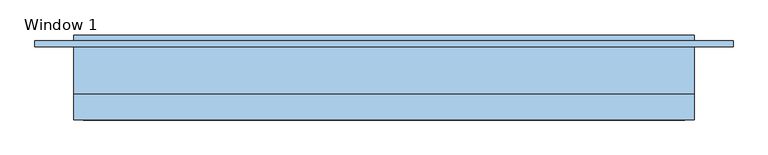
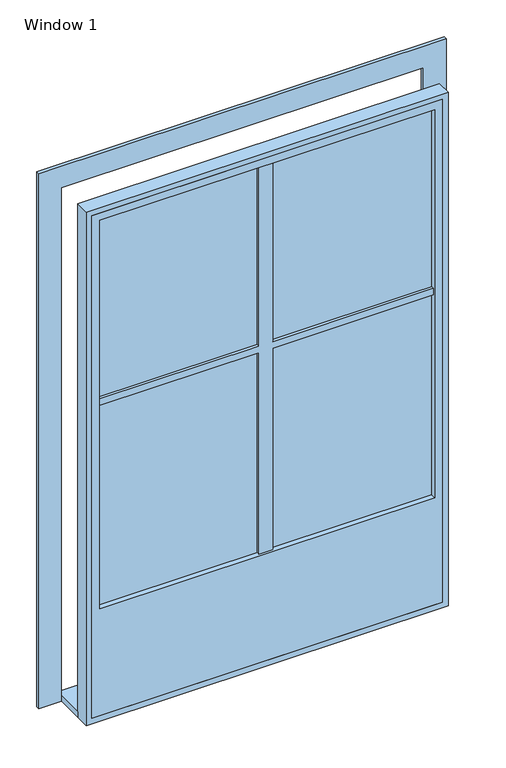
"""IFC4 building model written with IfcOpenShell, lengths in millimetres: window geometry, Window 1 : 1600/2400."""

from ifc_helpers import new_model, si_unit, frame, origin, origin_with_axes, place, context, project, spatial, polyline, outline, extrude, faceted_brep, source, transform, mapped, element, save


def window_1_87741a49(model_context):
    return source(origin(), model_context, "Body", "SolidModel", [
        extrude(outline(polyline([(800.0, 26.9623738), (-800.0, 26.9623738), (-800.0, 180.0), (800.0, 180.0), (800.0, 26.9623738)])), origin_with_axes(), (0.0, 0.0, 1.0), 25.0),
        extrude(outline(polyline([(0.0, -800.0), (0.0, 800.0), (2400.0, 800.0), (2400.0, -800.0), (0.0, -800.0)]), holes=[polyline([(25.0, -775.0), (2375.0, -775.0), (2375.0, 775.0), (25.0, 775.0), (25.0, -775.0)])]), frame((0.0, -39.0188131, 0.0), z_axis=(0.0, 1.0, 0.0), x_axis=(0.0, 0.0, 1.0)), (0.0, 0.0, 1.0), 65.9811869),
        faceted_brep([(740.0, -28.5188131, 1497.5), (30.0, -28.5188131, 1497.5), (30.0, -28.5188131, 2340.0), (-30.0, -28.5188131, 2340.0), (-30.0, -28.5188131, 1497.5), (-740.0, -28.5188131, 1497.5), (-740.0, -28.5188131, 1467.5), (-30.0, -28.5188131, 1467.5), (-30.0, -28.5188131, 525.0), (30.0, -28.5188131, 525.0), (30.0, -28.5188131, 1467.5), (740.0, -28.5188131, 1467.5), (740.0, -8.5188131, 1467.5), (30.0, -8.5188131, 1467.5), (30.0, -8.5188131, 1497.5), (740.0, -8.5188131, 1497.5), (-30.0, -8.5188131, 1467.5), (-740.0, -8.5188131, 1467.5), (-740.0, -8.5188131, 1497.5), (-30.0, -8.5188131, 1497.5), (-775.0, 11.4811869, 2375.0), (775.0, 11.4811869, 2375.0), (775.0, 11.4811869, 25.0), (-775.0, 11.4811869, 25.0), (-30.0, 11.4811869, 525.0), (-30.0, 11.4811869, 2340.0), (-740.0, 11.4811869, 2340.0), (-740.0, 11.4811869, 525.0), (30.0, 11.4811869, 2340.0), (30.0, 11.4811869, 525.0), (740.0, 11.4811869, 525.0), (740.0, 11.4811869, 2340.0), (-775.0, -39.0188131, 2375.0), (-775.0, -39.0188131, 25.0), (775.0, -39.0188131, 25.0), (775.0, -39.0188131, 2375.0), (-740.0, -39.0188131, 2340.0), (740.0, -39.0188131, 2340.0), (740.0, -39.0188131, 525.0), (-740.0, -39.0188131, 525.0)], [[[0, 1, 2, 3, 4, 5, 6, 7, 8, 9, 10, 11]], [[12, 13, 14, 15]], [[16, 17, 18, 19]], [[1, 0, 15, 14]], [[5, 4, 19, 18]], [[7, 6, 17, 16]], [[11, 10, 13, 12]], [[20, 21, 22, 23], [24, 25, 26, 27], [28, 29, 30, 31]], [[25, 24, 8, 7, 16, 19, 4, 3]], [[29, 28, 2, 1, 14, 13, 10, 9]], [[32, 33, 34, 35], [36, 37, 38, 39]], [[33, 32, 20, 23]], [[34, 33, 23, 22]], [[35, 34, 22, 21]], [[32, 35, 21, 20]], [[37, 36, 26, 25, 3, 2, 28, 31]], [[38, 37, 31, 30], [0, 11, 12, 15]], [[39, 38, 30, 29, 9, 8, 24, 27]], [[36, 39, 27, 26], [6, 5, 18, 17]]]),
        extrude(outline(polyline([(2400.0, -800.0), (2400.0, 800.0), (0.0, 800.0), (0.0, 900.0), (2500.0, 900.0), (2500.0, -900.0), (0.0, -900.0), (0.0, -800.0), (2400.0, -800.0)])), frame((0.0, 150.0, 0.0), z_axis=(0.0, 1.0, 0.0), x_axis=(0.0, 0.0, 1.0)), (0.0, 0.0, 1.0), 15.0),
        extrude(outline(polyline([(740.0, -15.5188131), (-740.0, -15.5188131), (-740.0, -13.5188131), (740.0, -13.5188131), (740.0, -15.5188131)])), frame((0.0, 0.0, 525.0), z_axis=(0.0, 0.0, 1.0), x_axis=(1.0, 0.0, 0.0)), (0.0, 0.0, 1.0), 1815.0),
    ])


if __name__ == "__main__":
    model = new_model("IFC4")
    model_context = context("Model", 3, world=origin())
    ifc_project = project(units=[si_unit("LENGTHUNIT", "METRE", prefix="MILLI")], contexts=[model_context])
    site = spatial("IfcSite", under=ifc_project)
    building = spatial("IfcBuilding", under=site)
    placement = place(None, origin())
    window_1_shape = window_1_87741a49(model_context)
    element("IfcWindow", 1, ObjectType="Window 1 : 1600/2400", at=placement, inside=building, context=model_context, shape_type="MappedRepresentation", body=[
        mapped(window_1_shape, transform((0.0, 0.0, 0.0), x_axis=(1.0, 0.0, 0.0), y_axis=(0.0, 1.0, 0.0), z_axis=(0.0, 0.0, 1.0))),
    ])
    save(model, "model.ifc")
